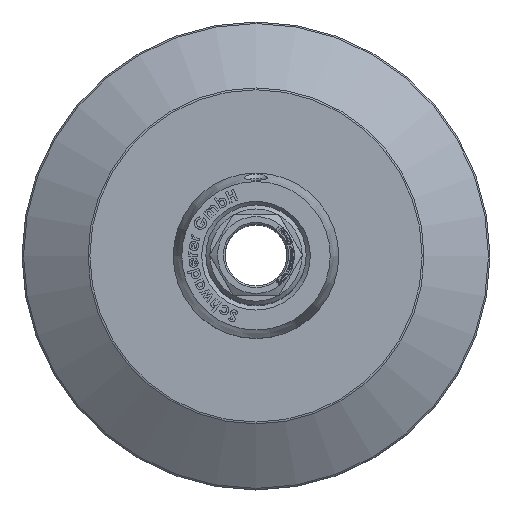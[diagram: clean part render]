
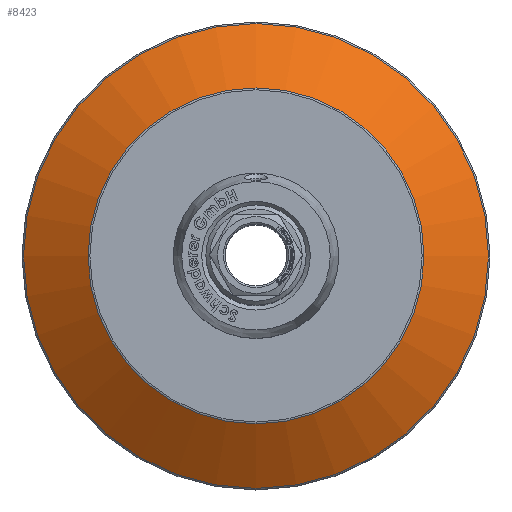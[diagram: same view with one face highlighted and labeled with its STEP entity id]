
A CAD part, top view. The second image highlights one B-rep face of the part: STEP entity #8423.
In plain terms, the highlighted conical face has half-angle 56.976 degrees and reference radius 60 mm.
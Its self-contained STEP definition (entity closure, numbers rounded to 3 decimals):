
#949=LINE('',#10938,#1730);
#1730=VECTOR('',#9349,60.);
#2511=CONICAL_SURFACE('',#8930,60.,0.994);
#2529=FACE_OUTER_BOUND('',#3008,.T.);
#3008=EDGE_LOOP('',(#5825,#5826,#5827,#5828,#5829,#5830));
#3538=CIRCLE('',#8927,50.249);
#3539=CIRCLE('',#8928,50.249);
#3541=CIRCLE('',#8931,69.545);
#3542=CIRCLE('',#8932,69.545);
#3652=VERTEX_POINT('',#10927);
#3653=VERTEX_POINT('',#10929);
#3654=VERTEX_POINT('',#10934);
#3655=VERTEX_POINT('',#10935);
#4521=EDGE_CURVE('',#3652,#3653,#3538,.T.);
#4522=EDGE_CURVE('',#3653,#3652,#3539,.T.);
#4524=EDGE_CURVE('',#3654,#3655,#3541,.T.);
#4525=EDGE_CURVE('',#3655,#3654,#3542,.T.);
#4526=EDGE_CURVE('',#3655,#3652,#949,.T.);
#5825=ORIENTED_EDGE('',*,*,#4524,.F.);
#5826=ORIENTED_EDGE('',*,*,#4525,.F.);
#5827=ORIENTED_EDGE('',*,*,#4526,.T.);
#5828=ORIENTED_EDGE('',*,*,#4522,.F.);
#5829=ORIENTED_EDGE('',*,*,#4521,.F.);
#5830=ORIENTED_EDGE('',*,*,#4526,.F.);
#8423=ADVANCED_FACE('',(#2529),#2511,.T.);
#8927=AXIS2_PLACEMENT_3D('',#10930,#9337,#9338);
#8928=AXIS2_PLACEMENT_3D('',#10931,#9339,#9340);
#8930=AXIS2_PLACEMENT_3D('',#10933,#9343,#9344);
#8931=AXIS2_PLACEMENT_3D('',#10936,#9345,#9346);
#8932=AXIS2_PLACEMENT_3D('',#10937,#9347,#9348);
#9337=DIRECTION('center_axis',(0.,0.,
1.));
#9338=DIRECTION('ref_axis',(-1.,0.,0.));
#9339=DIRECTION('center_axis',(0.,0.,
1.));
#9340=DIRECTION('ref_axis',(-1.,0.,0.));
#9343=DIRECTION('center_axis',(0.,0.,-1.));
#9344=DIRECTION('ref_axis',(1.,0.,0.));
#9345=DIRECTION('center_axis',(0.,0.,
-1.));
#9346=DIRECTION('ref_axis',(-1.,0.,0.));
#9347=DIRECTION('center_axis',(0.,0.,
-1.));
#9348=DIRECTION('ref_axis',(-1.,0.,0.));
#9349=DIRECTION('',(0.838,0.,0.545));
#10927=CARTESIAN_POINT('',(-50.249,0.,-24.029));
#10929=CARTESIAN_POINT('',(50.249,0.,-24.029));
#10930=CARTESIAN_POINT('Origin',(0.,0.,-24.029));
#10931=CARTESIAN_POINT('Origin',(0.,0.,-24.029));
#10933=CARTESIAN_POINT('Origin',(0.,0.,-30.367));
#10934=CARTESIAN_POINT('',(69.545,0.,-36.571));
#10935=CARTESIAN_POINT('',(-69.545,0.,-36.571));
#10936=CARTESIAN_POINT('Origin',(0.,0.,
-36.571));
#10937=CARTESIAN_POINT('Origin',(0.,0.,
-36.571));
#10938=CARTESIAN_POINT('',(-60.,0.,-30.367));
